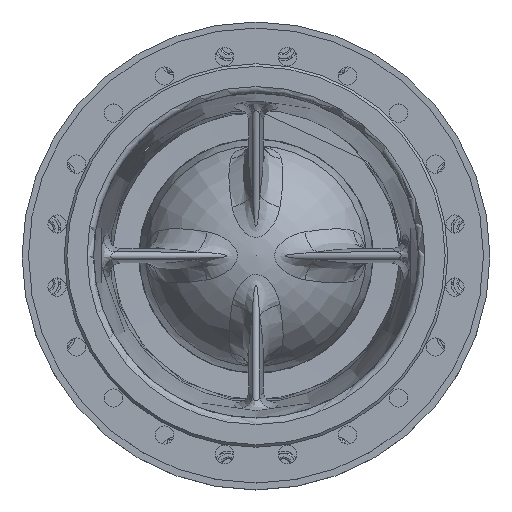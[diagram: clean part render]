
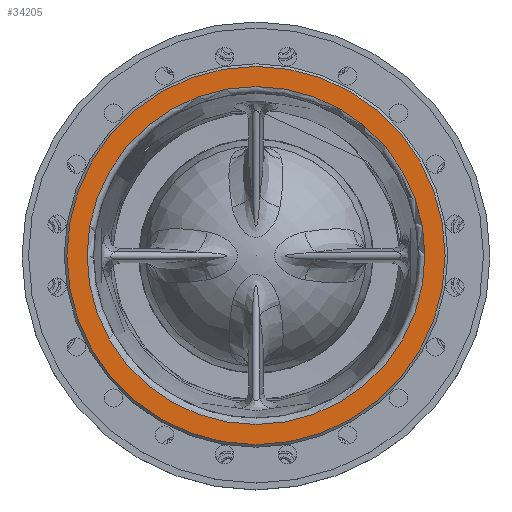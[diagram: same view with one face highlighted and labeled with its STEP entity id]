
A CAD part, top view. The second image highlights one B-rep face of the part: STEP entity #34205.
In plain terms, the highlighted planar face has unit normal (0, 0, 1).
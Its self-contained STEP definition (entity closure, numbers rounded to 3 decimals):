
#3198=PLANE('',#36111);
#5454=ORIENTED_EDGE('',*,*,#10993,.T.);
#5455=ORIENTED_EDGE('',*,*,#11271,.F.);
#10993=EDGE_CURVE('',#13996,#13996,#16152,.F.);
#11271=EDGE_CURVE('',#14274,#14274,#16258,.T.);
#13996=VERTEX_POINT('',#69520);
#14274=VERTEX_POINT('',#71370);
#16152=CIRCLE('',#35938,260.);
#16258=CIRCLE('',#36112,291.);
#17513=EDGE_LOOP('',(#5454));
#17514=EDGE_LOOP('',(#5455));
#20042=FACE_BOUND('',#17513,.T.);
#20043=FACE_BOUND('',#17514,.T.);
#34205=ADVANCED_FACE('',(#20042,#20043),#3198,.T.);
#35938=AXIS2_PLACEMENT_3D('',#69519,#38973,#38974);
#36111=AXIS2_PLACEMENT_3D('',#71368,#39319,#39320);
#36112=AXIS2_PLACEMENT_3D('',#71369,#39321,#39322);
#38973=DIRECTION('',(0.,0.,1.));
#38974=DIRECTION('',(0.,-1.,0.));
#39319=DIRECTION('',(0.,0.,1.));
#39320=DIRECTION('',(0.,-1.,0.));
#39321=DIRECTION('',(0.,0.,-1.));
#39322=DIRECTION('',(0.,1.,0.));
#69519=CARTESIAN_POINT('',(0.,0.,349.92));
#69520=CARTESIAN_POINT('',(0.,-260.,349.92));
#71368=CARTESIAN_POINT('',(0.,291.,349.92));
#71369=CARTESIAN_POINT('',(0.,0.,349.92));
#71370=CARTESIAN_POINT('',(0.,291.,349.92));
